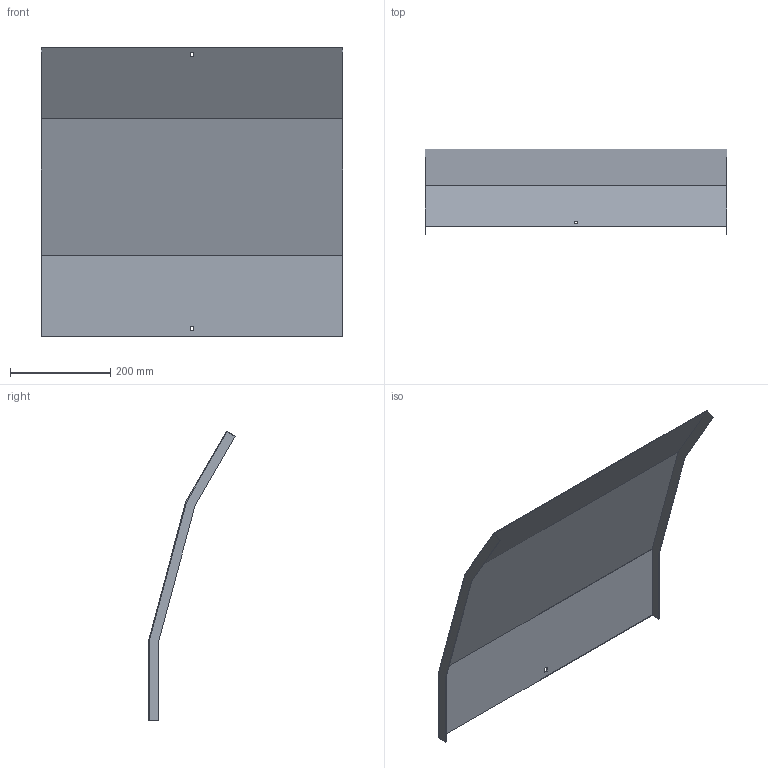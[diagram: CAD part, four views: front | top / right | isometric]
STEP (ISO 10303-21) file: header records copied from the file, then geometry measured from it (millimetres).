
FILE_DESCRIPTION (( 'STEP AP214' ), '1' );
FILE_NAME ('35N5C600.step', '2025-02-21T10:28:42', ( '' ), ( '' ), 'SwSTEP 2.0', 'SolidWorks 2023', '' );
FILE_SCHEMA (( 'AUTOMOTIVE_DESIGN' ));
Length unit declared in the file: millimetre
Products named in the file (1): 35N5C600
Bounding box: 603 x 172.21 x 578.06 mm (x, y, z)
Volume: 584304 mm3; surface area: 782883.2 mm2
Topology: 1 solids, 1 shells, 26 faces, 72 edges, 48 vertices
Faces by surface type: plane 26
Entity records: 847 total; most frequent: CARTESIAN_POINT 147, ORIENTED_EDGE 144, DIRECTION 126, VECTOR 72, LINE 72, EDGE_CURVE 72, VERTEX_POINT 48, EDGE_LOOP 30
